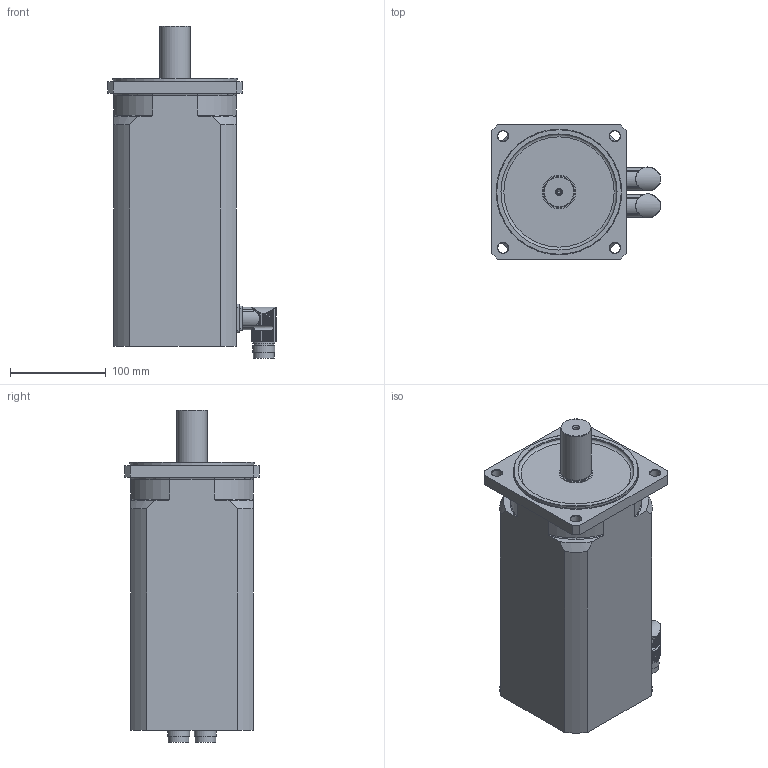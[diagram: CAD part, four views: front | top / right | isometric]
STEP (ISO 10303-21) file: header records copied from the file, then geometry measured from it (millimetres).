
FILE_DESCRIPTION(/* description */ (''),/* implementation_level */ '2;1');
FILE_NAME(/* name */ 'MR 7458-Ux-Nxxx-G01-A0D-M0',/* time_stamp */ '2007-07-13T09:50:00+01:00',/* author */ (''),/* organization */ ('ESR Pollmeier GmbH'),/* preprocessor_version */ 'ST-DEVELOPER v8',/* originating_system */ 'UNIGRAPHICS SOLUTIONS - UNIGRAPHICS 18.0',/* authorisation */ '');
FILE_SCHEMA (('AUTOMOTIVE_DESIGN { 1 2 10303 214 0 1 1 1 }'));
Length unit declared in the file: millimetre
Products named in the file (3): Winkelflanschdose_0; Rotor_SY5_0; MR7458-Ux-Nxxx-G01-A0D-M0_0
Assembly tree (3 placements, depth 2):
  MR7458-Ux-Nxxx-G01-A0D-M0_0
    Rotor_SY5_0
    Winkelflanschdose_0  x2
Bounding box: 175.49 x 140 x 346.15 mm (x, y, z)
Volume: 4509827.1 mm3; surface area: 200849.6 mm2
Topology: 4 solids, 4 shells, 410 faces, 1138 edges, 753 vertices
Faces by surface type: cylinder 315, plane 69, cone 13, torus 13
Full cylindrical faces by diameter (mm): 4.351 x1, 5.5 x1, 11 x4, 16 x2, 21 x2, 21.5 x2, 23 x4, 31.52 x1, 32 x1, 35 x1, 121 x1, 130 x1
Entity records: 8139 total; most frequent: CARTESIAN_POINT 2068, ORIENTED_EDGE 1262, DIRECTION 1198, EDGE_CURVE 631, AXIS2_PLACEMENT_3D 481, VERTEX_POINT 433, EDGE_LOOP 295, ADVANCED_FACE 246
